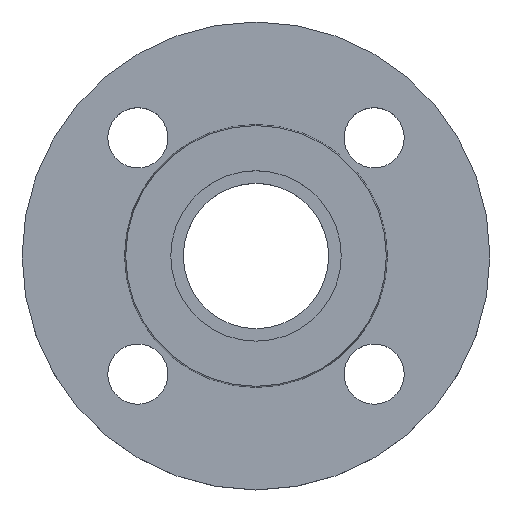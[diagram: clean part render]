
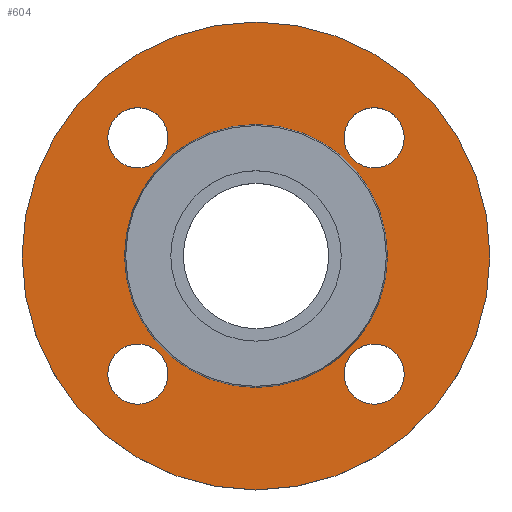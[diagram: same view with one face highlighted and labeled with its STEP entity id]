
A CAD part, top view. The second image highlights one B-rep face of the part: STEP entity #604.
In plain terms, the highlighted planar face has unit normal (0, 0, 1).
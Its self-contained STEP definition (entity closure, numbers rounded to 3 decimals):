
#17 = EDGE_LOOP ( 'NONE', ( #505, #773 ) ) ;
#21 = DIRECTION ( 'NONE',  ( 1., 0., 0. ) ) ;
#22 = ORIENTED_EDGE ( 'NONE', *, *, #321, .T. ) ;
#26 = CIRCLE ( 'NONE', #122, 9. ) ;
#28 = VERTEX_POINT ( 'NONE', #207 ) ;
#31 = ORIENTED_EDGE ( 'NONE', *, *, #70, .T. ) ;
#58 = EDGE_CURVE ( 'NONE', #449, #662, #303, .T. ) ;
#70 = EDGE_CURVE ( 'NONE', #346, #445, #193, .T. ) ;
#73 = CARTESIAN_POINT ( 'NONE',  ( -26.355, -35.355, -2. ) ) ;
#75 = CARTESIAN_POINT ( 'NONE',  ( 0., 0., -2. ) ) ;
#85 = DIRECTION ( 'NONE',  ( 0., 0., 1. ) ) ;
#92 = EDGE_CURVE ( 'NONE', #445, #346, #437, .T. ) ;
#98 = CARTESIAN_POINT ( 'NONE',  ( -35.355, -35.355, -2. ) ) ;
#99 = EDGE_LOOP ( 'NONE', ( #364, #137 ) ) ;
#102 = CIRCLE ( 'NONE', #565, 9. ) ;
#106 = AXIS2_PLACEMENT_3D ( 'NONE', #795, #244, #488 ) ;
#111 = ORIENTED_EDGE ( 'NONE', *, *, #92, .T. ) ;
#122 = AXIS2_PLACEMENT_3D ( 'NONE', #754, #196, #442 ) ;
#132 = CARTESIAN_POINT ( 'NONE',  ( 0., 0., -2. ) ) ;
#137 = ORIENTED_EDGE ( 'NONE', *, *, #586, .T. ) ;
#140 = CIRCLE ( 'NONE', #248, 70. ) ;
#141 = CARTESIAN_POINT ( 'NONE',  ( 35.355, 35.355, -2. ) ) ;
#144 = CARTESIAN_POINT ( 'NONE',  ( 0., 0., -2. ) ) ;
#145 = AXIS2_PLACEMENT_3D ( 'NONE', #778, #233, #479 ) ;
#146 = EDGE_CURVE ( 'NONE', #474, #751, #630, .T. ) ;
#149 = FACE_OUTER_BOUND ( 'NONE', #17, .T. ) ;
#151 = CARTESIAN_POINT ( 'NONE',  ( 35.355, -35.355, -2. ) ) ;
#171 = AXIS2_PLACEMENT_3D ( 'NONE', #144, #392, #651 ) ;
#176 = VERTEX_POINT ( 'NONE', #769 ) ;
#182 = EDGE_CURVE ( 'NONE', #787, #28, #674, .T. ) ;
#190 = CARTESIAN_POINT ( 'NONE',  ( -44.355, 35.355, -2. ) ) ;
#193 = CIRCLE ( 'NONE', #558, 39.353 ) ;
#196 = DIRECTION ( 'NONE',  ( 0., 0., -1. ) ) ;
#200 = VERTEX_POINT ( 'NONE', #281 ) ;
#207 = CARTESIAN_POINT ( 'NONE',  ( 26.355, -35.355, -2. ) ) ;
#210 = AXIS2_PLACEMENT_3D ( 'NONE', #653, #85, #338 ) ;
#211 = FACE_BOUND ( 'NONE', #699, .T. ) ;
#216 = AXIS2_PLACEMENT_3D ( 'NONE', #151, #398, #655 ) ;
#228 = EDGE_CURVE ( 'NONE', #176, #424, #251, .T. ) ;
#233 = DIRECTION ( 'NONE',  ( 0., 0., -1. ) ) ;
#241 = CARTESIAN_POINT ( 'NONE',  ( 44.355, -35.355, -2. ) ) ;
#244 = DIRECTION ( 'NONE',  ( 0., 0., -1. ) ) ;
#248 = AXIS2_PLACEMENT_3D ( 'NONE', #75, #327, #581 ) ;
#251 = CIRCLE ( 'NONE', #145, 9. ) ;
#274 = CARTESIAN_POINT ( 'NONE',  ( -35.355, -35.355, -2. ) ) ;
#281 = CARTESIAN_POINT ( 'NONE',  ( 44.355, 35.355, -2. ) ) ;
#287 = ORIENTED_EDGE ( 'NONE', *, *, #594, .T. ) ;
#303 = CIRCLE ( 'NONE', #665, 9. ) ;
#321 = EDGE_CURVE ( 'NONE', #28, #787, #570, .T. ) ;
#322 = VERTEX_POINT ( 'NONE', #735 ) ;
#327 = DIRECTION ( 'NONE',  ( 0., 0., -1. ) ) ;
#333 = CARTESIAN_POINT ( 'NONE',  ( -35.355, 35.355, -2. ) ) ;
#338 = DIRECTION ( 'NONE',  ( 1., 0., 0. ) ) ;
#346 = VERTEX_POINT ( 'NONE', #681 ) ;
#348 = DIRECTION ( 'NONE',  ( 0., 0., -1. ) ) ;
#353 = CIRCLE ( 'NONE', #452, 9. ) ;
#364 = ORIENTED_EDGE ( 'NONE', *, *, #436, .T. ) ;
#370 = AXIS2_PLACEMENT_3D ( 'NONE', #98, #348, #606 ) ;
#371 = ORIENTED_EDGE ( 'NONE', *, *, #182, .T. ) ;
#380 = DIRECTION ( 'NONE',  ( 0., 0., -1. ) ) ;
#389 = DIRECTION ( 'NONE',  ( 0., 0., -1. ) ) ;
#392 = DIRECTION ( 'NONE',  ( 0., 0., -1. ) ) ;
#396 = PLANE ( 'NONE',  #210 ) ;
#398 = DIRECTION ( 'NONE',  ( 0., 0., -1. ) ) ;
#424 = VERTEX_POINT ( 'NONE', #190 ) ;
#436 = EDGE_CURVE ( 'NONE', #200, #322, #26, .T. ) ;
#437 = CIRCLE ( 'NONE', #793, 39.353 ) ;
#442 = DIRECTION ( 'NONE',  ( 1., 0., 0. ) ) ;
#445 = VERTEX_POINT ( 'NONE', #639 ) ;
#447 = CARTESIAN_POINT ( 'NONE',  ( -70., 0., -2. ) ) ;
#449 = VERTEX_POINT ( 'NONE', #73 ) ;
#452 = AXIS2_PLACEMENT_3D ( 'NONE', #141, #389, #647 ) ;
#455 = FACE_BOUND ( 'NONE', #99, .T. ) ;
#457 = CARTESIAN_POINT ( 'NONE',  ( 0., 0., -2. ) ) ;
#474 = VERTEX_POINT ( 'NONE', #447 ) ;
#478 = CARTESIAN_POINT ( 'NONE',  ( 70., 0., -2. ) ) ;
#479 = DIRECTION ( 'NONE',  ( 1., 0., 0. ) ) ;
#486 = EDGE_LOOP ( 'NONE', ( #371, #22 ) ) ;
#488 = DIRECTION ( 'NONE',  ( 1., 0., 0. ) ) ;
#505 = ORIENTED_EDGE ( 'NONE', *, *, #569, .F. ) ;
#506 = DIRECTION ( 'NONE',  ( 0., 0., -1. ) ) ;
#517 = ORIENTED_EDGE ( 'NONE', *, *, #228, .T. ) ;
#521 = FACE_BOUND ( 'NONE', #486, .T. ) ;
#524 = DIRECTION ( 'NONE',  ( 0., 0., -1. ) ) ;
#530 = EDGE_LOOP ( 'NONE', ( #542, #685 ) ) ;
#536 = CARTESIAN_POINT ( 'NONE',  ( -44.355, -35.355, -2. ) ) ;
#542 = ORIENTED_EDGE ( 'NONE', *, *, #58, .T. ) ;
#558 = AXIS2_PLACEMENT_3D ( 'NONE', #457, #506, #752 ) ;
#565 = AXIS2_PLACEMENT_3D ( 'NONE', #333, #587, #21 ) ;
#569 = EDGE_CURVE ( 'NONE', #751, #474, #140, .T. ) ;
#570 = CIRCLE ( 'NONE', #106, 9. ) ;
#581 = DIRECTION ( 'NONE',  ( -1., 0., 0. ) ) ;
#586 = EDGE_CURVE ( 'NONE', #322, #200, #353, .T. ) ;
#587 = DIRECTION ( 'NONE',  ( 0., 0., -1. ) ) ;
#594 = EDGE_CURVE ( 'NONE', #424, #176, #102, .T. ) ;
#604 = ADVANCED_FACE ( 'NONE', ( #521, #765, #211, #455, #708, #149 ), #396, .T. ) ;
#606 = DIRECTION ( 'NONE',  ( 1., 0., 0. ) ) ;
#630 = CIRCLE ( 'NONE', #171, 70. ) ;
#638 = DIRECTION ( 'NONE',  ( -1., 0., 0. ) ) ;
#639 = CARTESIAN_POINT ( 'NONE',  ( 39.353, 0., -2. ) ) ;
#647 = DIRECTION ( 'NONE',  ( 1., 0., 0. ) ) ;
#651 = DIRECTION ( 'NONE',  ( -1., 0., 0. ) ) ;
#653 = CARTESIAN_POINT ( 'NONE',  ( 39.353, 0., -2. ) ) ;
#655 = DIRECTION ( 'NONE',  ( 1., 0., 0. ) ) ;
#662 = VERTEX_POINT ( 'NONE', #536 ) ;
#665 = AXIS2_PLACEMENT_3D ( 'NONE', #274, #524, #768 ) ;
#674 = CIRCLE ( 'NONE', #216, 9. ) ;
#681 = CARTESIAN_POINT ( 'NONE',  ( -39.353, 0., -2. ) ) ;
#684 = EDGE_CURVE ( 'NONE', #662, #449, #729, .T. ) ;
#685 = ORIENTED_EDGE ( 'NONE', *, *, #684, .T. ) ;
#699 = EDGE_LOOP ( 'NONE', ( #517, #287 ) ) ;
#708 = FACE_BOUND ( 'NONE', #761, .T. ) ;
#729 = CIRCLE ( 'NONE', #370, 9. ) ;
#735 = CARTESIAN_POINT ( 'NONE',  ( 26.355, 35.355, -2. ) ) ;
#751 = VERTEX_POINT ( 'NONE', #478 ) ;
#752 = DIRECTION ( 'NONE',  ( -1., 0., 0. ) ) ;
#754 = CARTESIAN_POINT ( 'NONE',  ( 35.355, 35.355, -2. ) ) ;
#761 = EDGE_LOOP ( 'NONE', ( #31, #111 ) ) ;
#765 = FACE_BOUND ( 'NONE', #530, .T. ) ;
#768 = DIRECTION ( 'NONE',  ( 1., 0., 0. ) ) ;
#769 = CARTESIAN_POINT ( 'NONE',  ( -26.355, 35.355, -2. ) ) ;
#773 = ORIENTED_EDGE ( 'NONE', *, *, #146, .F. ) ;
#778 = CARTESIAN_POINT ( 'NONE',  ( -35.355, 35.355, -2. ) ) ;
#787 = VERTEX_POINT ( 'NONE', #241 ) ;
#793 = AXIS2_PLACEMENT_3D ( 'NONE', #132, #380, #638 ) ;
#795 = CARTESIAN_POINT ( 'NONE',  ( 35.355, -35.355, -2. ) ) ;
